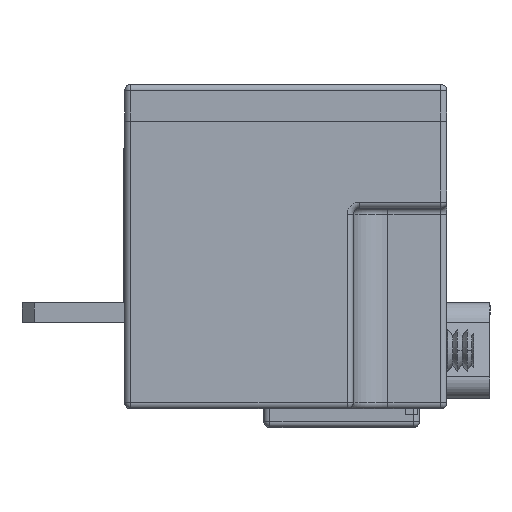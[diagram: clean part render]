
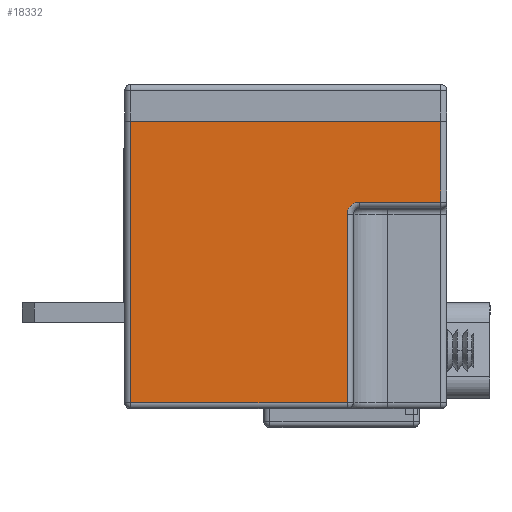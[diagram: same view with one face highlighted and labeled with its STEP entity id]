
A CAD part, left-side view. The second image highlights one B-rep face of the part: STEP entity #18332.
In plain terms, the highlighted planar face has unit normal (-1, 0, 0).
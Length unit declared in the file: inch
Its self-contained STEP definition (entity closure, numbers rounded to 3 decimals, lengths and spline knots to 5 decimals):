
#487 = EDGE_CURVE ( 'NONE', #24808, #13263, #15028, .T. ) ;
#950 = CARTESIAN_POINT ( 'NONE',  ( -1.38985, 2.02058, -0.40059 ) ) ;
#1592 = AXIS2_PLACEMENT_3D ( 'NONE', #9631, #3339, #24336 ) ;
#2129 = EDGE_CURVE ( 'NONE', #13665, #13263, #19111, .T. ) ;
#2212 = CARTESIAN_POINT ( 'NONE',  ( -1.38985, 2.02058, 0.50473 ) ) ;
#2261 = CARTESIAN_POINT ( 'NONE',  ( -1.38985, 1.00404, 0.50473 ) ) ;
#2637 = VERTEX_POINT ( 'NONE', #18448 ) ;
#3339 = DIRECTION ( 'NONE',  ( -1., 0., 0. ) ) ;
#4708 = DIRECTION ( 'NONE',  ( 0., 0., 1. ) ) ;
#5802 = CARTESIAN_POINT ( 'NONE',  ( -1.38985, 1.00404, 0.50473 ) ) ;
#5810 = CARTESIAN_POINT ( 'NONE',  ( -1.38985, 1.00404, 0.24441 ) ) ;
#6321 = PLANE ( 'NONE',  #19346 ) ;
#6642 = CARTESIAN_POINT ( 'NONE',  ( -1.38985, 2.00089, -0.40059 ) ) ;
#7082 = LINE ( 'NONE', #15471, #17141 ) ;
#8242 = CARTESIAN_POINT ( 'NONE',  ( -1.38985, 2.00089, 0.50473 ) ) ;
#8664 = CARTESIAN_POINT ( 'NONE',  ( -1.38985, 2.02058, 0.50473 ) ) ;
#9631 = CARTESIAN_POINT ( 'NONE',  ( -1.38985, 1.26593, 0.20504 ) ) ;
#10172 = FACE_OUTER_BOUND ( 'NONE', #14449, .T. ) ;
#10327 = LINE ( 'NONE', #18696, #23093 ) ;
#11731 = VERTEX_POINT ( 'NONE', #6642 ) ;
#12957 = ORIENTED_EDGE ( 'NONE', *, *, #19595, .T. ) ;
#13263 = VERTEX_POINT ( 'NONE', #5802 ) ;
#13574 = ORIENTED_EDGE ( 'NONE', *, *, #15438, .T. ) ;
#13665 = VERTEX_POINT ( 'NONE', #18137 ) ;
#14043 = ORIENTED_EDGE ( 'NONE', *, *, #14081, .F. ) ;
#14081 = EDGE_CURVE ( 'NONE', #2637, #16859, #19993, .T. ) ;
#14449 = EDGE_LOOP ( 'NONE', ( #17080, #24563, #26178, #12957, #20787, #13574, #14043 ) ) ;
#15028 = LINE ( 'NONE', #2261, #26023 ) ;
#15438 = EDGE_CURVE ( 'NONE', #23062, #16859, #10327, .T. ) ;
#15471 = CARTESIAN_POINT ( 'NONE',  ( -1.38985, 0.98436, 0.24441 ) ) ;
#16303 = LINE ( 'NONE', #950, #21106 ) ;
#16319 = VECTOR ( 'NONE', #23357, 39.37008 ) ;
#16343 = CARTESIAN_POINT ( 'NONE',  ( -1.38985, 1.3053, 0.20504 ) ) ;
#16622 = DIRECTION ( 'NONE',  ( 0., 1., 0. ) ) ;
#16629 = DIRECTION ( 'NONE',  ( 0., 0., -1. ) ) ;
#16859 = VERTEX_POINT ( 'NONE', #16343 ) ;
#17080 = ORIENTED_EDGE ( 'NONE', *, *, #21810, .T. ) ;
#17141 = VECTOR ( 'NONE', #23832, 39.37008 ) ;
#18137 = CARTESIAN_POINT ( 'NONE',  ( -1.38985, 2.00089, 0.50473 ) ) ;
#18332 = ADVANCED_FACE ( 'NONE', ( #10172 ), #6321, .F. ) ;
#18448 = CARTESIAN_POINT ( 'NONE',  ( -1.38985, 1.26593, 0.24441 ) ) ;
#18607 = EDGE_CURVE ( 'NONE', #11731, #23062, #16303, .T. ) ;
#18696 = CARTESIAN_POINT ( 'NONE',  ( -1.38985, 1.3053, 0.50473 ) ) ;
#19111 = LINE ( 'NONE', #8664, #16319 ) ;
#19346 = AXIS2_PLACEMENT_3D ( 'NONE', #2212, #24867, #16622 ) ;
#19595 = EDGE_CURVE ( 'NONE', #13665, #11731, #27059, .T. ) ;
#19993 = CIRCLE ( 'NONE', #1592, 0.03937 ) ;
#20278 = DIRECTION ( 'NONE',  ( 0., -1., 0. ) ) ;
#20787 = ORIENTED_EDGE ( 'NONE', *, *, #18607, .T. ) ;
#21106 = VECTOR ( 'NONE', #20278, 39.37008 ) ;
#21466 = VECTOR ( 'NONE', #16629, 39.37008 ) ;
#21810 = EDGE_CURVE ( 'NONE', #2637, #24808, #7082, .T. ) ;
#23062 = VERTEX_POINT ( 'NONE', #23978 ) ;
#23093 = VECTOR ( 'NONE', #25142, 39.37008 ) ;
#23357 = DIRECTION ( 'NONE',  ( 0., -1., 0. ) ) ;
#23832 = DIRECTION ( 'NONE',  ( 0., -1., 0. ) ) ;
#23978 = CARTESIAN_POINT ( 'NONE',  ( -1.38985, 1.3053, -0.40059 ) ) ;
#24336 = DIRECTION ( 'NONE',  ( 0., 1., 0. ) ) ;
#24563 = ORIENTED_EDGE ( 'NONE', *, *, #487, .T. ) ;
#24808 = VERTEX_POINT ( 'NONE', #5810 ) ;
#24867 = DIRECTION ( 'NONE',  ( 1., 0., 0. ) ) ;
#25142 = DIRECTION ( 'NONE',  ( 0., 0., 1. ) ) ;
#26023 = VECTOR ( 'NONE', #4708, 39.37008 ) ;
#26178 = ORIENTED_EDGE ( 'NONE', *, *, #2129, .F. ) ;
#27059 = LINE ( 'NONE', #8242, #21466 ) ;
